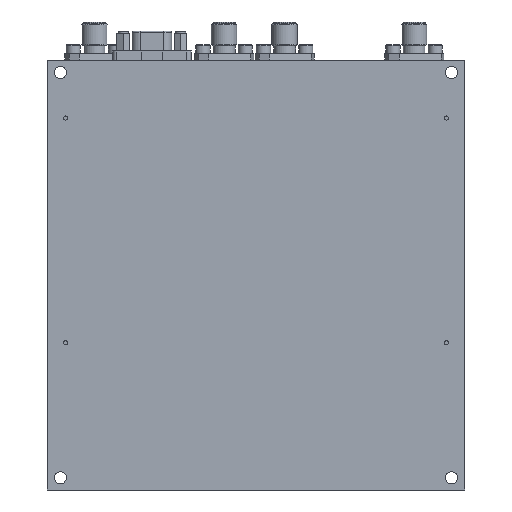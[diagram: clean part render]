
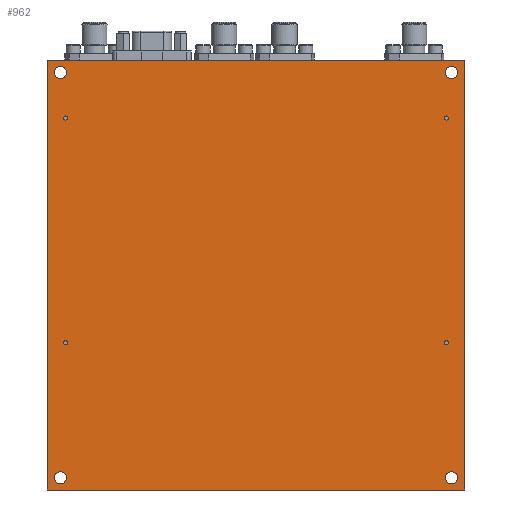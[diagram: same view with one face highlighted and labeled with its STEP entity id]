
A CAD part, front view. The second image highlights one B-rep face of the part: STEP entity #962.
In plain terms, the highlighted planar face has unit normal (0, -1, 0).
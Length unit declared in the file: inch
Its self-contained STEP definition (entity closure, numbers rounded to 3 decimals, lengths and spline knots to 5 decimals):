
#124=CARTESIAN_POINT('',(1.863,0.0,1.993));
#125=VERTEX_POINT('',#124);
#126=CARTESIAN_POINT('',(1.923,0.0,1.993));
#127=DIRECTION('',(0.0,1.0,0.0));
#128=DIRECTION('',(1.0,0.0,0.0));
#129=AXIS2_PLACEMENT_3D('',#126,#127,#128);
#130=CIRCLE('',#129,0.06);
#131=EDGE_CURVE('',#125,#125,#130,.T.);
#152=CARTESIAN_POINT('',(-1.984,0.0,-1.993));
#153=VERTEX_POINT('',#152);
#154=CARTESIAN_POINT('',(-1.924,0.0,-1.993));
#155=DIRECTION('',(0.0,1.0,0.0));
#156=DIRECTION('',(1.0,0.0,0.0));
#157=AXIS2_PLACEMENT_3D('',#154,#155,#156);
#158=CIRCLE('',#157,0.06);
#159=EDGE_CURVE('',#153,#153,#158,.T.);
#180=CARTESIAN_POINT('',(1.863,0.0,-1.993));
#181=VERTEX_POINT('',#180);
#182=CARTESIAN_POINT('',(1.923,0.0,-1.993));
#183=DIRECTION('',(0.0,1.0,0.0));
#184=DIRECTION('',(1.0,0.0,0.0));
#185=AXIS2_PLACEMENT_3D('',#182,#183,#184);
#186=CIRCLE('',#185,0.06);
#187=EDGE_CURVE('',#181,#181,#186,.T.);
#208=CARTESIAN_POINT('',(-1.984,0.0,1.993));
#209=VERTEX_POINT('',#208);
#210=CARTESIAN_POINT('',(-1.924,0.0,1.993));
#211=DIRECTION('',(0.0,1.0,0.0));
#212=DIRECTION('',(1.0,0.0,0.0));
#213=AXIS2_PLACEMENT_3D('',#210,#211,#212);
#214=CIRCLE('',#213,0.06);
#215=EDGE_CURVE('',#209,#209,#214,.T.);
#247=CARTESIAN_POINT('',(-1.852,0.0,-0.6649));
#248=VERTEX_POINT('',#247);
#249=CARTESIAN_POINT('',(-1.872,0.0,-0.6649));
#250=DIRECTION('',(0.0,1.0,0.0));
#251=DIRECTION('',(-1.0,0.0,0.0));
#252=AXIS2_PLACEMENT_3D('',#249,#250,#251);
#253=CIRCLE('',#252,0.02);
#254=EDGE_CURVE('',#248,#248,#253,.T.);
#284=CARTESIAN_POINT('',(-1.852,0.0,1.544));
#285=VERTEX_POINT('',#284);
#286=CARTESIAN_POINT('',(-1.872,0.0,1.544));
#287=DIRECTION('',(0.0,1.0,0.0));
#288=DIRECTION('',(-1.0,0.0,0.0));
#289=AXIS2_PLACEMENT_3D('',#286,#287,#288);
#290=CIRCLE('',#289,0.02);
#291=EDGE_CURVE('',#285,#285,#290,.T.);
#321=CARTESIAN_POINT('',(1.892,0.0,1.544));
#322=VERTEX_POINT('',#321);
#323=CARTESIAN_POINT('',(1.872,0.0,1.544));
#324=DIRECTION('',(0.0,1.0,0.0));
#325=DIRECTION('',(-1.0,0.0,0.0));
#326=AXIS2_PLACEMENT_3D('',#323,#324,#325);
#327=CIRCLE('',#326,0.02);
#328=EDGE_CURVE('',#322,#322,#327,.T.);
#358=CARTESIAN_POINT('',(1.892,0.0,-0.6649));
#359=VERTEX_POINT('',#358);
#360=CARTESIAN_POINT('',(1.872,0.0,-0.6649));
#361=DIRECTION('',(0.0,1.0,0.0));
#362=DIRECTION('',(-1.0,0.0,0.0));
#363=AXIS2_PLACEMENT_3D('',#360,#361,#362);
#364=CIRCLE('',#363,0.02);
#365=EDGE_CURVE('',#359,#359,#364,.T.);
#754=CARTESIAN_POINT('',(-2.05,0.0,2.113));
#755=VERTEX_POINT('',#754);
#756=CARTESIAN_POINT('',(-2.05,0.0,-2.113));
#757=VERTEX_POINT('',#756);
#758=CARTESIAN_POINT('',(-2.05,0.0,2.113));
#759=DIRECTION('',(0.0,0.0,-1.0));
#760=VECTOR('',#759,4.226);
#761=LINE('',#758,#760);
#762=EDGE_CURVE('',#755,#757,#761,.T.);
#794=CARTESIAN_POINT('',(2.05,0.0,-2.113));
#795=VERTEX_POINT('',#794);
#796=CARTESIAN_POINT('',(-2.05,0.0,-2.113));
#797=DIRECTION('',(1.0,0.0,0.0));
#798=VECTOR('',#797,4.1);
#799=LINE('',#796,#798);
#800=EDGE_CURVE('',#757,#795,#799,.T.);
#825=CARTESIAN_POINT('',(2.05,0.0,2.113));
#826=VERTEX_POINT('',#825);
#827=CARTESIAN_POINT('',(2.05,0.0,-2.113));
#828=DIRECTION('',(0.0,0.0,1.0));
#829=VECTOR('',#828,4.226);
#830=LINE('',#827,#829);
#831=EDGE_CURVE('',#795,#826,#830,.T.);
#856=CARTESIAN_POINT('',(2.05,0.0,2.113));
#857=DIRECTION('',(-1.0,0.0,0.0));
#858=VECTOR('',#857,4.1);
#859=LINE('',#856,#858);
#860=EDGE_CURVE('',#826,#755,#859,.T.);
#927=CARTESIAN_POINT('',(0.0,0.0,0.0));
#928=DIRECTION('',(0.0,1.0,0.0));
#929=DIRECTION('',(0.0,0.0,1.0));
#930=AXIS2_PLACEMENT_3D('',#927,#928,#929);
#931=PLANE('',#930);
#932=ORIENTED_EDGE('',*,*,#860,.T.);
#933=ORIENTED_EDGE('',*,*,#762,.T.);
#934=ORIENTED_EDGE('',*,*,#800,.T.);
#935=ORIENTED_EDGE('',*,*,#831,.T.);
#936=EDGE_LOOP('',(#932,#933,#934,#935));
#937=FACE_OUTER_BOUND('',#936,.T.);
#938=ORIENTED_EDGE('',*,*,#131,.T.);
#939=EDGE_LOOP('',(#938));
#940=FACE_BOUND('',#939,.T.);
#941=ORIENTED_EDGE('',*,*,#159,.T.);
#942=EDGE_LOOP('',(#941));
#943=FACE_BOUND('',#942,.T.);
#944=ORIENTED_EDGE('',*,*,#187,.T.);
#945=EDGE_LOOP('',(#944));
#946=FACE_BOUND('',#945,.T.);
#947=ORIENTED_EDGE('',*,*,#215,.T.);
#948=EDGE_LOOP('',(#947));
#949=FACE_BOUND('',#948,.T.);
#950=ORIENTED_EDGE('',*,*,#254,.T.);
#951=EDGE_LOOP('',(#950));
#952=FACE_BOUND('',#951,.T.);
#953=ORIENTED_EDGE('',*,*,#291,.T.);
#954=EDGE_LOOP('',(#953));
#955=FACE_BOUND('',#954,.T.);
#956=ORIENTED_EDGE('',*,*,#328,.T.);
#957=EDGE_LOOP('',(#956));
#958=FACE_BOUND('',#957,.T.);
#959=ORIENTED_EDGE('',*,*,#365,.T.);
#960=EDGE_LOOP('',(#959));
#961=FACE_BOUND('',#960,.T.);
#962=ADVANCED_FACE('',(#937,#940,#943,#946,#949,#952,#955,#958,#961),#931,.F.);
